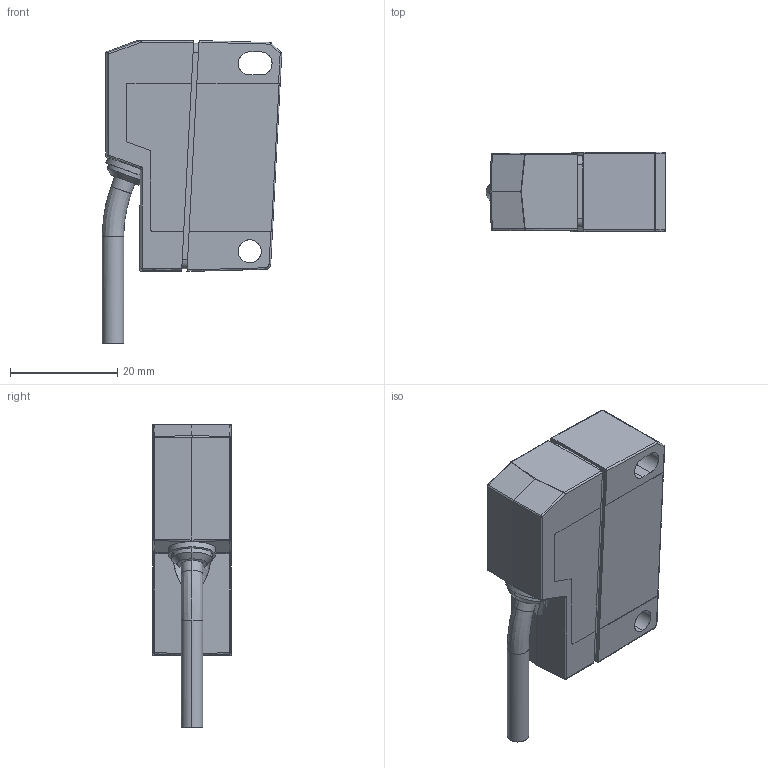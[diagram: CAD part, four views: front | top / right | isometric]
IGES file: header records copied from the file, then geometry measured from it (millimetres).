
Start section: Comment
Global section: file name: xxDK_14_keinAntrieb_Kabel.igs; native system:  By UGS Corp.; preprocessor: XPlus GENERIC/IGES 3.0; author: Author; organization: Title; date: 20090513.111605; units: millimetre
Bounding box: 33.43 x 14.8 x 56.39 mm (x, y, z)
Surface area: 5425.2 mm2 (no closed solid volume)
Topology: 0 solids, 0 shells, 139 faces, 668 edges, 666 vertices
Faces by surface type: bspline 139
